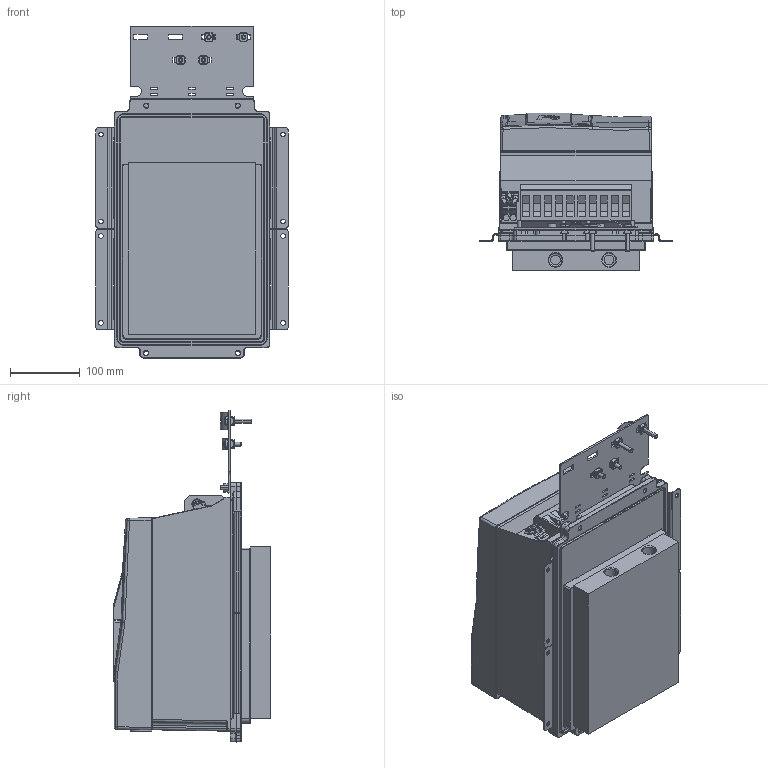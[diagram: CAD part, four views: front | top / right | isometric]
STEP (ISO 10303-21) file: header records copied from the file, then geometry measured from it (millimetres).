
FILE_DESCRIPTION (( 'STEP AP214' ), '1' );
FILE_NAME ('F6-4TK5-P151.STEP', '2020-12-10T12:52:33', ( '' ), ( '' ), 'SwSTEP 2.0', 'SolidWorks 2019', '' );
FILE_SCHEMA (( 'AUTOMOTIVE_DESIGN' ));
Length unit declared in the file: millimetre
Products named in the file (13): 10058448_000; 10060692_000_Leistungsteil TK5 (Kundenmodell); 10063070_000; 10061645_000; 10051076_000_Kundenmodell; 10044453_000_Schirmung (Kundenmodell); 10059764_000_Blindabdeckung (Kundenmodell); 10059765_000; 10060814_000; F6-4TK5-P151; 10032600_000_Kundenmodell; 10059762_000_Kundenmodell mit Geberbuchsen; 10061644_000_Deckel (Kundenmodell)
Assembly tree (12 placements, depth 4):
  F6-4TK5-P151
    10060692_000_Leistungsteil TK5 (Kundenmodell)
      10060814_000
    10032600_000_Kundenmodell
      10061644_000_Deckel (Kundenmodell)
        10061645_000
      10058448_000
    10051076_000_Kundenmodell
      10059764_000_Blindabdeckung (Kundenmodell)
        10059765_000
      10059762_000_Kundenmodell mit Geberbuchsen
    10044453_000_Schirmung (Kundenmodell)
      10063070_000
Bounding box: 277 x 226.7 x 477.5 mm (x, y, z)
Volume: 10955140.4 mm3; surface area: 908312.9 mm2
Topology: 11 solids, 31 shells, 3366 faces, 8939 edges, 5644 vertices
Faces by surface type: plane 1510, cylinder 949, bspline 555, torus 166, cone 138, sphere 48
Entity records: 132720 total; most frequent: CARTESIAN_POINT 46502, ORIENTED_EDGE 17766, DIRECTION 15384, EDGE_CURVE 8883, VERTEX_POINT 5642, AXIS2_PLACEMENT_3D 5157, LINE 5070, VECTOR 5070
